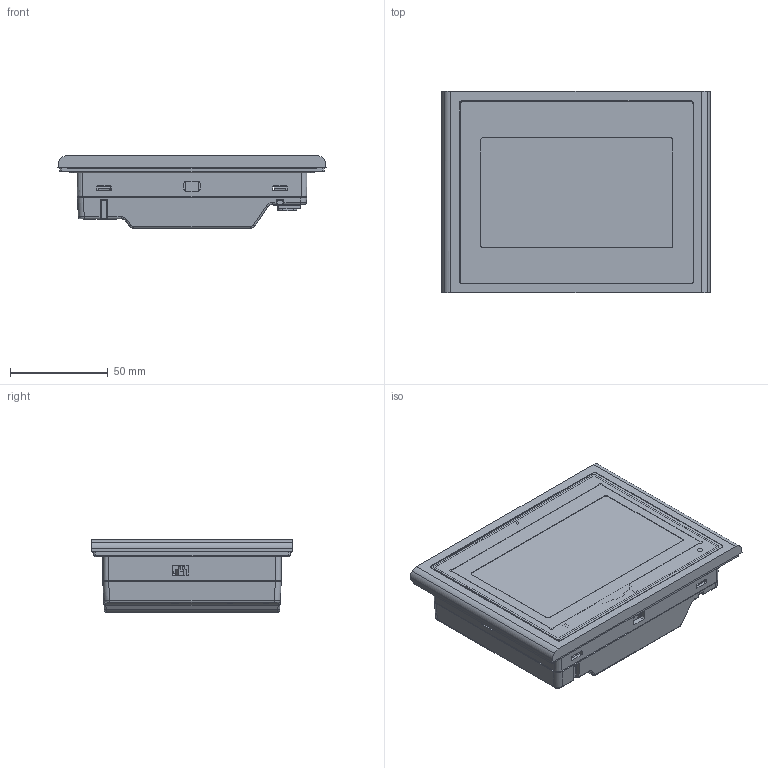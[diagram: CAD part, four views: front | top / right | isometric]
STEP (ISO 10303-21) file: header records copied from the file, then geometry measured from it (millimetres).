
FILE_DESCRIPTION((''),'2;1');
FILE_NAME('DOP-103','2020-08-14T08:45:38',('YY.CHENG'),(''),'CREO PARAMETRIC BY PTC INC, 2017110','CREO PARAMETRIC BY PTC INC, 2017110','');
FILE_SCHEMA(('CONFIG_CONTROL_DESIGN'));
Products named in the file (1): DOP-103
Bounding box: 137 x 103 x 37.1 mm (x, y, z)
Volume: 18504.4 mm3; surface area: 118329.6 mm2
Topology: 4 solids, 15 shells, 3089 faces, 8548 edges, 5536 vertices
Faces by surface type: plane 2119, cylinder 648, bspline 122, torus 70, cone 58, extrusion 55, sphere 17
Entity records: 106574 total; most frequent: CARTESIAN_POINT 29480, ORIENTED_EDGE 17037, DIRECTION 14334, EDGE_CURVE 8548, VECTOR 6458, LINE 6403, VERTEX_POINT 5536, AXIS2_PLACEMENT_3D 3938
